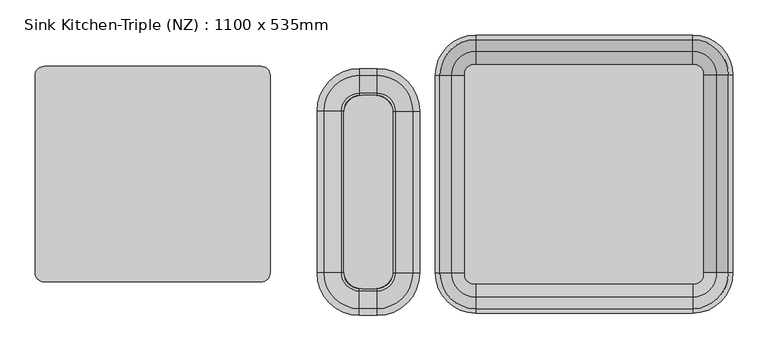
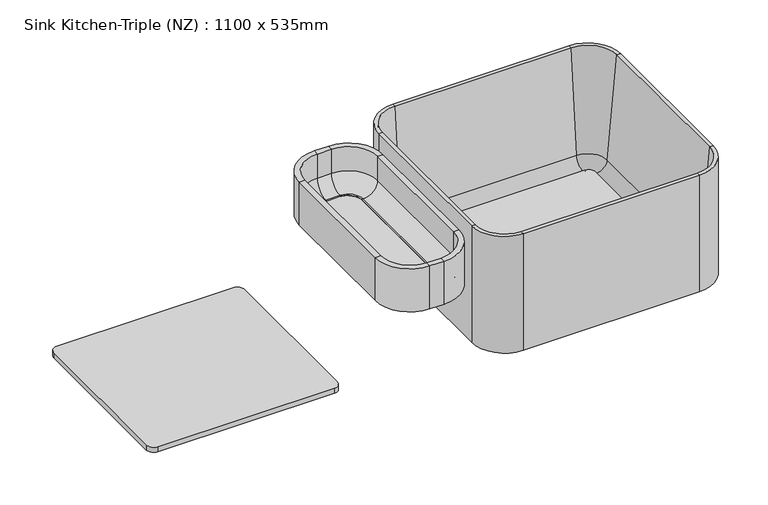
"""IFC4 building model written with IfcOpenShell, lengths in millimetres: flow terminal geometry, Sink Kitchen-Triple (NZ) : 1100 x 535mm."""

from ifc_helpers import new_model, si_unit, point, frame, frame_2d, origin, place, context, project, spatial, polyline, circle_curve, ellipse_curve, trimmed, segment, composite_curve, outline, extrude, source, transform, mapped, element, save
from ifc_brep_helpers import plane_surface, cylinder_surface, revolved_surface, advanced_brep


def sink_kitchen_triple_nz_1100_x_535mm_e0c28fc6(model_context):
    return source(origin(), model_context, "Body", "SolidModel", [
        extrude(outline(composite_curve([segment(trimmed(circle_curve(frame_2d((25.2142406, 50.7704011)), 25.4), [point((25.2142406, 76.1704011))], [point((50.6142406, 50.7704011))], False, "CARTESIAN"), True, "CONTINUOUS"), segment(polyline([(50.6142406, 50.7704011), (50.6142406, -173.0795989)]), True, "CONTINUOUS"), segment(trimmed(circle_curve(frame_2d((25.2142406, -173.0795989)), 25.4), [point((50.6142406, -173.0795989))], [point((25.2142406, -198.4795989))], False, "CARTESIAN"), True, "CONTINUOUS"), segment(polyline([(25.2142406, -198.4795989), (6.1642406, -198.4795989)]), True, "CONTINUOUS"), segment(trimmed(circle_curve(frame_2d((6.1642406, -173.0795989)), 25.4), [point((6.1642406, -198.4795989))], [point((-19.2357594, -173.0795989))], False, "CARTESIAN"), True, "CONTINUOUS"), segment(polyline([(-19.2357594, -173.0795989), (-19.2357594, 50.7704011)]), True, "CONTINUOUS"), segment(trimmed(circle_curve(frame_2d((6.1642406, 50.7704011)), 25.4), [point((-19.2357594, 50.7704011))], [point((6.1642406, 76.1704011))], False, "CARTESIAN"), True, "CONTINUOUS"), segment(polyline([(6.1642406, 76.1704011), (25.2142406, 76.1704011)]), True, "CONTINUOUS")], self_intersect=False)), frame((0.0, 0.0, 820.625), z_axis=(0.0, 0.0, 1.0), x_axis=(1.0, 0.0, 0.0)), (0.0, 0.0, 1.0), 9.525),
        advanced_brep(
        [(79.1892406, 53.9454011, 900.0), (28.3892406, 104.7454011, 900.0), (28.3892406, 104.7454011, 855.55), (79.1892406, 53.9454011, 855.55), (88.7142406, 53.9454011, 900.0), (28.3892406, 114.2704011, 900.0), (88.7142406, 53.9454011, 820.625), (28.3892406, 114.2704011, 820.625), (50.6142406, 53.9454011, 820.625), (28.3892406, 76.1704011, 820.625), (50.6142406, 53.9454011, 830.15), (28.3892406, 76.1704011, 830.15), (53.7892406, 53.9454011, 830.15), (28.3892406, 79.3454011, 830.15), (79.1892406, -176.2545989, 855.55), (79.1892406, -176.2545989, 900.0), (88.7142406, -176.2545989, 900.0), (88.7142406, -176.2545989, 820.625), (50.6142406, -176.2545989, 820.625), (50.6142406, -176.2545989, 830.15), (53.7892406, -176.2545989, 830.15), (28.3892406, -227.0545989, 900.0), (28.3892406, -227.0545989, 855.55), (28.3892406, -236.5795989, 900.0), (28.3892406, -236.5795989, 820.625), (28.3892406, -198.4795989, 820.625), (28.3892406, -198.4795989, 830.15), (28.3892406, -201.6545989, 830.15), (2.9892406, -227.0545989, 855.55), (2.9892406, -227.0545989, 900.0), (2.9892406, -236.5795989, 900.0), (2.9892406, -236.5795989, 820.625), (2.9892406, -198.4795989, 820.625), (2.9892406, -198.4795989, 830.15), (2.9892406, -201.6545989, 830.15), (-47.8107594, -176.2545989, 900.0), (-47.8107594, -176.2545989, 855.55), (-57.3357594, -176.2545989, 900.0), (-57.3357594, -176.2545989, 820.625), (-19.2357594, -176.2545989, 820.625), (-19.2357594, -176.2545989, 830.15), (-22.4107594, -176.2545989, 830.15), (-47.8107594, 53.9454011, 855.55), (-47.8107594, 53.9454011, 900.0), (-57.3357594, 53.9454011, 900.0), (-57.3357594, 53.9454011, 820.625), (-19.2357594, 53.9454011, 820.625), (-19.2357594, 53.9454011, 830.15), (-22.4107594, 53.9454011, 830.15), (2.9892406, 104.7454011, 900.0), (2.9892406, 104.7454011, 855.55), (2.9892406, 114.2704011, 900.0), (2.9892406, 114.2704011, 820.625), (2.9892406, 76.1704011, 820.625), (2.9892406, 76.1704011, 830.15), (2.9892406, 79.3454011, 830.15)],
        [
            (0, 1, circle_curve(frame((28.3892406, 53.9454011, 900.0), z_axis=(0.0, 0.0, 1.0), x_axis=(0.0, 1.0, 0.0)), 50.8)),
            (1, 2),
            (2, 3, circle_curve(frame((28.3892406, 53.9454011, 855.55), z_axis=(0.0, 0.0, -1.0), x_axis=(0.0, 1.0, 0.0)), 50.8)),
            (3, 0),
            (4, 5, circle_curve(frame((28.3892406, 53.9454011, 900.0), z_axis=(0.0, 0.0, 1.0), x_axis=(0.0, 1.0, 0.0)), 60.325)),
            (5, 1),
            (0, 4),
            (6, 7, circle_curve(frame((28.3892406, 53.9454011, 820.625), z_axis=(0.0, 0.0, 1.0), x_axis=(0.0, 1.0, 0.0)), 60.325)),
            (7, 5),
            (4, 6),
            (8, 9, circle_curve(frame((28.3892406, 53.9454011, 820.625), z_axis=(0.0, 0.0, 1.0), x_axis=(0.0, 1.0, 0.0)), 22.225)),
            (9, 7),
            (6, 8),
            (10, 11, circle_curve(frame((28.3892406, 53.9454011, 830.15), z_axis=(0.0, 0.0, 1.0), x_axis=(0.0, 1.0, 0.0)), 22.225)),
            (11, 9),
            (8, 10),
            (12, 13, circle_curve(frame((28.3892406, 53.9454011, 830.15), z_axis=(0.0, 0.0, 1.0), x_axis=(0.0, 1.0, 0.0)), 25.4)),
            (13, 11),
            (10, 12),
            (2, 13, circle_curve(frame((28.3892406, 79.3454011, 855.55), z_axis=(-1.0, 0.0, 0.0), x_axis=(0.0, 1.0, 0.0)), 25.4)),
            (12, 3, circle_curve(frame((53.7892406, 53.9454011, 855.55), z_axis=(0.0, -1.0, 0.0), x_axis=(1.0, 0.0, 0.0)), 25.4)),
            (3, 14),
            (14, 15),
            (15, 0),
            (15, 16),
            (16, 4),
            (16, 17),
            (17, 6),
            (17, 18),
            (18, 8),
            (18, 19),
            (19, 10),
            (19, 20),
            (20, 12),
            (20, 14, circle_curve(frame((53.7892406, -176.2545989, 855.55), z_axis=(0.0, -1.0, 0.0), x_axis=(1.0, 0.0, 0.0)), 25.4)),
            (21, 15, circle_curve(frame((28.3892406, -176.2545989, 900.0), z_axis=(0.0, 0.0, 1.0), x_axis=(1.0, 0.0, 0.0)), 50.8)),
            (14, 22, circle_curve(frame((28.3892406, -176.2545989, 855.55), z_axis=(0.0, 0.0, -1.0), x_axis=(1.0, 0.0, 0.0)), 50.8)),
            (22, 21),
            (23, 16, circle_curve(frame((28.3892406, -176.2545989, 900.0), z_axis=(0.0, 0.0, 1.0), x_axis=(1.0, 0.0, 0.0)), 60.325)),
            (21, 23),
            (24, 17, circle_curve(frame((28.3892406, -176.2545989, 820.625), z_axis=(0.0, 0.0, 1.0), x_axis=(1.0, 0.0, 0.0)), 60.325)),
            (23, 24),
            (25, 18, circle_curve(frame((28.3892406, -176.2545989, 820.625), z_axis=(0.0, 0.0, 1.0), x_axis=(1.0, 0.0, 0.0)), 22.225)),
            (24, 25),
            (26, 19, circle_curve(frame((28.3892406, -176.2545989, 830.15), z_axis=(0.0, 0.0, 1.0), x_axis=(1.0, 0.0, 0.0)), 22.225)),
            (25, 26),
            (27, 20, circle_curve(frame((28.3892406, -176.2545989, 830.15), z_axis=(0.0, 0.0, 1.0), x_axis=(1.0, 0.0, 0.0)), 25.4)),
            (26, 27),
            (27, 22, circle_curve(frame((28.3892406, -201.6545989, 855.55), z_axis=(-1.0, 0.0, 0.0), x_axis=(0.0, -1.0, 0.0)), 25.4)),
            (22, 28),
            (28, 29),
            (29, 21),
            (29, 30),
            (30, 23),
            (30, 31),
            (31, 24),
            (31, 32),
            (32, 25),
            (32, 33),
            (33, 26),
            (33, 34),
            (34, 27),
            (34, 28, circle_curve(frame((2.9892406, -201.6545989, 855.55), z_axis=(-1.0, 0.0, 0.0), x_axis=(0.0, -1.0, 0.0)), 25.4)),
            (35, 29, circle_curve(frame((2.9892406, -176.2545989, 900.0), z_axis=(0.0, 0.0, 1.0), x_axis=(0.0, -1.0, 0.0)), 50.8)),
            (28, 36, circle_curve(frame((2.9892406, -176.2545989, 855.55), z_axis=(0.0, 0.0, -1.0), x_axis=(0.0, -1.0, 0.0)), 50.8)),
            (36, 35),
            (37, 30, circle_curve(frame((2.9892406, -176.2545989, 900.0), z_axis=(0.0, 0.0, 1.0), x_axis=(0.0, -1.0, 0.0)), 60.325)),
            (35, 37),
            (38, 31, circle_curve(frame((2.9892406, -176.2545989, 820.625), z_axis=(0.0, 0.0, 1.0), x_axis=(0.0, -1.0, 0.0)), 60.325)),
            (37, 38),
            (39, 32, circle_curve(frame((2.9892406, -176.2545989, 820.625), z_axis=(0.0, 0.0, 1.0), x_axis=(0.0, -1.0, 0.0)), 22.225)),
            (38, 39),
            (40, 33, circle_curve(frame((2.9892406, -176.2545989, 830.15), z_axis=(0.0, 0.0, 1.0), x_axis=(0.0, -1.0, 0.0)), 22.225)),
            (39, 40),
            (41, 34, circle_curve(frame((2.9892406, -176.2545989, 830.15), z_axis=(0.0, 0.0, 1.0), x_axis=(0.0, -1.0, 0.0)), 25.4)),
            (40, 41),
            (41, 36, circle_curve(frame((-22.4107594, -176.2545989, 855.55), z_axis=(0.0, 1.0, 0.0), x_axis=(-1.0, 0.0, 0.0)), 25.4)),
            (36, 42),
            (42, 43),
            (43, 35),
            (43, 44),
            (44, 37),
            (44, 45),
            (45, 38),
            (45, 46),
            (46, 39),
            (46, 47),
            (47, 40),
            (47, 48),
            (48, 41),
            (48, 42, circle_curve(frame((-22.4107594, 53.9454011, 855.55), z_axis=(0.0, 1.0, 0.0), x_axis=(-1.0, 0.0, 0.0)), 25.4)),
            (49, 43, circle_curve(frame((2.9892406, 53.9454011, 900.0), z_axis=(0.0, 0.0, 1.0), x_axis=(-1.0, 0.0, 0.0)), 50.8)),
            (42, 50, circle_curve(frame((2.9892406, 53.9454011, 855.55), z_axis=(0.0, 0.0, -1.0), x_axis=(-1.0, 0.0, 0.0)), 50.8)),
            (50, 49),
            (51, 44, circle_curve(frame((2.9892406, 53.9454011, 900.0), z_axis=(0.0, 0.0, 1.0), x_axis=(-1.0, 0.0, 0.0)), 60.325)),
            (49, 51),
            (52, 45, circle_curve(frame((2.9892406, 53.9454011, 820.625), z_axis=(0.0, 0.0, 1.0), x_axis=(-1.0, 0.0, 0.0)), 60.325)),
            (51, 52),
            (53, 46, circle_curve(frame((2.9892406, 53.9454011, 820.625), z_axis=(0.0, 0.0, 1.0), x_axis=(-1.0, 0.0, 0.0)), 22.225)),
            (52, 53),
            (54, 47, circle_curve(frame((2.9892406, 53.9454011, 830.15), z_axis=(0.0, 0.0, 1.0), x_axis=(-1.0, 0.0, 0.0)), 22.225)),
            (53, 54),
            (55, 48, circle_curve(frame((2.9892406, 53.9454011, 830.15), z_axis=(0.0, 0.0, 1.0), x_axis=(-1.0, 0.0, 0.0)), 25.4)),
            (54, 55),
            (55, 50, circle_curve(frame((2.9892406, 79.3454011, 855.55), z_axis=(1.0, 0.0, 0.0), x_axis=(0.0, 1.0, 0.0)), 25.4)),
            (50, 2),
            (1, 49),
            (5, 51),
            (7, 52),
            (9, 53),
            (11, 54),
            (13, 55),
        ],
        [
            revolved_surface(polyline([(28.3892406, 104.7454011, 855.55), (28.3892406, 104.7454011, 900.0)]), (28.3892406, 53.9454011, 0.0), (0.0, 0.0, -1.0)),
            plane_surface(frame((28.3892406, 53.9454011, 900.0), z_axis=(0.0, 0.0, 1.0), x_axis=(0.0, 1.0, 0.0))),
            cylinder_surface(frame((28.3892406, 53.9454011, 0.0), z_axis=(0.0, 0.0, -1.0), x_axis=(0.0, 1.0, 0.0)), 60.325),
            plane_surface(frame((28.3892406, 53.9454011, 820.625), z_axis=(0.0, 0.0, -1.0), x_axis=(0.0, 1.0, 0.0))),
            revolved_surface(polyline([(28.3892406, 76.17040109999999, 820.625), (28.3892406, 76.17040109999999, 830.15)]), (28.3892406, 53.9454011, 0.0), (0.0, 0.0, -1.0)),
            plane_surface(frame((28.3892406, 53.9454011, 830.15), z_axis=(0.0, 0.0, 1.0), x_axis=(0.0, 1.0, 0.0))),
            revolved_surface(trimmed(ellipse_curve(frame((28.3892406, 79.3454011, 855.55), z_axis=(1.0, 0.0, 0.0), x_axis=(0.0, 1.0, 0.0)), 25.4, 25.4), [point((28.3892406, 79.3454011, 830.15))], [point((28.3892406, 104.7454011, 855.55))], True, "CARTESIAN"), (28.3892406, 53.9454011, 0.0), (0.0, 0.0, -1.0)),
            plane_surface(frame((79.1892406, 53.9454011, 855.55), z_axis=(-1.0, 0.0, 0.0), x_axis=(0.0, -1.0, 0.0))),
            plane_surface(frame((79.1892406, 53.9454011, 900.0), z_axis=(0.0, 0.0, 1.0), x_axis=(0.0, -1.0, 0.0))),
            plane_surface(frame((88.7142406, 53.9454011, 900.0), z_axis=(1.0, 0.0, 0.0), x_axis=(0.0, -1.0, 0.0))),
            plane_surface(frame((88.7142406, 53.9454011, 820.625), z_axis=(0.0, 0.0, -1.0), x_axis=(0.0, -1.0, 0.0))),
            plane_surface(frame((50.6142406, 53.9454011, 820.625), z_axis=(-1.0, 0.0, 0.0), x_axis=(0.0, -1.0, 0.0))),
            plane_surface(frame((50.6142406, 53.9454011, 830.15), z_axis=(0.0, 0.0, 1.0), x_axis=(0.0, -1.0, 0.0))),
            revolved_surface(polyline([(79.1892406, -176.2545989, 855.55), (79.1892406, 53.9454011, 855.55)]), (53.7892406, 53.9454011, 855.55), (0.0, -1.0, 0.0)),
            revolved_surface(polyline([(79.1892406, -176.2545989, 855.55), (79.1892406, -176.2545989, 900.0)]), (28.3892406, -176.2545989, 0.0), (0.0, 0.0, -1.0)),
            plane_surface(frame((28.3892406, -176.2545989, 900.0), z_axis=(0.0, 0.0, 1.0), x_axis=(1.0, 0.0, 0.0))),
            cylinder_surface(frame((28.3892406, -176.2545989, 0.0), z_axis=(0.0, 0.0, -1.0), x_axis=(1.0, 0.0, 0.0)), 60.325),
            plane_surface(frame((28.3892406, -176.2545989, 820.625), z_axis=(0.0, 0.0, -1.0), x_axis=(1.0, 0.0, 0.0))),
            revolved_surface(polyline([(50.6142406, -176.2545989, 820.625), (50.6142406, -176.2545989, 830.15)]), (28.3892406, -176.2545989, 0.0), (0.0, 0.0, -1.0)),
            plane_surface(frame((28.3892406, -176.2545989, 830.15), z_axis=(0.0, 0.0, 1.0), x_axis=(1.0, 0.0, 0.0))),
            revolved_surface(trimmed(ellipse_curve(frame((53.7892406, -176.2545989, 855.55), z_axis=(0.0, -1.0, 0.0), x_axis=(1.0, 0.0, 0.0)), 25.4, 25.4), [point((53.7892406, -176.2545989, 830.15))], [point((79.1892406, -176.2545989, 855.55))], True, "CARTESIAN"), (28.3892406, -176.2545989, 0.0), (0.0, 0.0, -1.0)),
            plane_surface(frame((28.3892406, -227.0545989, 855.55), z_axis=(0.0, 1.0, 0.0), x_axis=(-1.0, 0.0, 0.0))),
            plane_surface(frame((28.3892406, -227.0545989, 900.0), z_axis=(0.0, 0.0, 1.0), x_axis=(-1.0, 0.0, 0.0))),
            plane_surface(frame((28.3892406, -236.5795989, 900.0), z_axis=(0.0, -1.0, 0.0), x_axis=(-1.0, 0.0, 0.0))),
            plane_surface(frame((28.3892406, -236.5795989, 820.625), z_axis=(0.0, 0.0, -1.0), x_axis=(-1.0, 0.0, 0.0))),
            plane_surface(frame((28.3892406, -198.4795989, 820.625), z_axis=(0.0, 1.0, 0.0), x_axis=(-1.0, 0.0, 0.0))),
            plane_surface(frame((28.3892406, -198.4795989, 830.15), z_axis=(0.0, 0.0, 1.0), x_axis=(-1.0, 0.0, 0.0))),
            revolved_surface(polyline([(2.9892405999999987, -227.0545989, 855.55), (28.3892406, -227.0545989, 855.55)]), (28.3892406, -201.6545989, 855.55), (-1.0, 0.0, 0.0)),
            revolved_surface(polyline([(2.9892406, -227.05459889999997, 855.55), (2.9892406, -227.05459889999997, 900.0)]), (2.9892406, -176.2545989, 0.0), (0.0, 0.0, -1.0)),
            plane_surface(frame((2.9892406, -176.2545989, 900.0), z_axis=(0.0, 0.0, 1.0), x_axis=(0.0, -1.0, 0.0))),
            cylinder_surface(frame((2.9892406, -176.2545989, 0.0), z_axis=(0.0, 0.0, -1.0), x_axis=(0.0, -1.0, 0.0)), 60.325),
            plane_surface(frame((2.9892406, -176.2545989, 820.625), z_axis=(0.0, 0.0, -1.0), x_axis=(0.0, -1.0, 0.0))),
            revolved_surface(polyline([(2.9892406, -198.47959889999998, 820.625), (2.9892406, -198.47959889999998, 830.15)]), (2.9892406, -176.2545989, 0.0), (0.0, 0.0, -1.0)),
            plane_surface(frame((2.9892406, -176.2545989, 830.15), z_axis=(0.0, 0.0, 1.0), x_axis=(0.0, -1.0, 0.0))),
            revolved_surface(trimmed(ellipse_curve(frame((2.9892406, -201.6545989, 855.55), z_axis=(-1.0, 0.0, 0.0), x_axis=(0.0, -1.0, 0.0)), 25.4, 25.4), [point((2.9892406, -201.6545989, 830.15))], [point((2.9892406, -227.0545989, 855.55))], True, "CARTESIAN"), (2.9892406, -176.2545989, 0.0), (0.0, 0.0, -1.0)),
            plane_surface(frame((-47.8107594, -176.2545989, 855.55), z_axis=(1.0, 0.0, 0.0), x_axis=(0.0, 1.0, 0.0))),
            plane_surface(frame((-47.8107594, -176.2545989, 900.0), z_axis=(0.0, 0.0, 1.0), x_axis=(0.0, 1.0, 0.0))),
            plane_surface(frame((-57.3357594, -176.2545989, 900.0), z_axis=(-1.0, 0.0, 0.0), x_axis=(0.0, 1.0, 0.0))),
            plane_surface(frame((-57.3357594, -176.2545989, 820.625), z_axis=(0.0, 0.0, -1.0), x_axis=(0.0, 1.0, 0.0))),
            plane_surface(frame((-19.2357594, -176.2545989, 820.625), z_axis=(1.0, 0.0, 0.0), x_axis=(0.0, 1.0, 0.0))),
            plane_surface(frame((-19.2357594, -176.2545989, 830.15), z_axis=(0.0, 0.0, 1.0), x_axis=(0.0, 1.0, 0.0))),
            revolved_surface(polyline([(-47.810759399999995, 53.9454011, 855.55), (-47.810759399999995, -176.2545989, 855.55)]), (-22.4107594, -176.2545989, 855.55), (0.0, 1.0, 0.0)),
            revolved_surface(polyline([(-47.810759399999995, 53.9454011, 855.55), (-47.810759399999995, 53.9454011, 900.0)]), (2.9892406, 53.9454011, 0.0), (0.0, 0.0, -1.0)),
            plane_surface(frame((2.9892406, 53.9454011, 900.0), z_axis=(0.0, 0.0, 1.0), x_axis=(-1.0, 0.0, 0.0))),
            cylinder_surface(frame((2.9892406, 53.9454011, 0.0), z_axis=(0.0, 0.0, -1.0), x_axis=(-1.0, 0.0, 0.0)), 60.325),
            plane_surface(frame((2.9892406, 53.9454011, 820.625), z_axis=(0.0, 0.0, -1.0), x_axis=(-1.0, 0.0, 0.0))),
            revolved_surface(polyline([(-19.235759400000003, 53.9454011, 820.625), (-19.235759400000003, 53.9454011, 830.15)]), (2.9892406, 53.9454011, 0.0), (0.0, 0.0, -1.0)),
            plane_surface(frame((2.9892406, 53.9454011, 830.15), z_axis=(0.0, 0.0, 1.0), x_axis=(-1.0, 0.0, 0.0))),
            revolved_surface(trimmed(ellipse_curve(frame((-22.4107594, 53.9454011, 855.55), z_axis=(0.0, 1.0, 0.0), x_axis=(-1.0, 0.0, 0.0)), 25.4, 25.4), [point((-22.4107594, 53.9454011, 830.15))], [point((-47.8107594, 53.9454011, 855.55))], True, "CARTESIAN"), (2.9892406, 53.9454011, 0.0), (0.0, 0.0, -1.0)),
            plane_surface(frame((2.9892406, 104.7454011, 855.55), z_axis=(0.0, -1.0, 0.0), x_axis=(1.0, 0.0, 0.0))),
            plane_surface(frame((2.9892406, 104.7454011, 900.0), z_axis=(0.0, 0.0, 1.0), x_axis=(1.0, 0.0, 0.0))),
            plane_surface(frame((2.9892406, 114.2704011, 900.0), z_axis=(0.0, 1.0, 0.0), x_axis=(1.0, 0.0, 0.0))),
            plane_surface(frame((2.9892406, 114.2704011, 820.625), z_axis=(0.0, 0.0, -1.0), x_axis=(1.0, 0.0, 0.0))),
            plane_surface(frame((2.9892406, 76.1704011, 820.625), z_axis=(0.0, -1.0, 0.0), x_axis=(1.0, 0.0, 0.0))),
            plane_surface(frame((2.9892406, 76.1704011, 830.15), z_axis=(0.0, 0.0, 1.0), x_axis=(1.0, 0.0, 0.0))),
            revolved_surface(polyline([(28.3892406, 104.74540110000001, 855.55), (2.9892406, 104.74540110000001, 855.55)]), (2.9892406, 79.3454011, 855.55), (1.0, 0.0, 0.0)),
        ],
        [
            (0, [[1, 2, 3, 4]]),
            (1, [[5, 6, -1, 7]]),
            (2, [[8, 9, -5, 10]]),
            (3, [[11, 12, -8, 13]]),
            (4, [[14, 15, -11, 16]]),
            (5, [[17, 18, -14, 19]]),
            (6, [[-3, 20, -17, 21]]),
            (7, [[-4, 22, 23, 24]]),
            (8, [[-7, -24, 25, 26]]),
            (9, [[-10, -26, 27, 28]]),
            (10, [[-13, -28, 29, 30]]),
            (11, [[-16, -30, 31, 32]]),
            (12, [[-19, -32, 33, 34]]),
            (13, [[-21, -34, 35, -22]]),
            (14, [[36, -23, 37, 38]]),
            (15, [[39, -25, -36, 40]]),
            (16, [[41, -27, -39, 42]]),
            (17, [[43, -29, -41, 44]]),
            (18, [[45, -31, -43, 46]]),
            (19, [[47, -33, -45, 48]]),
            (20, [[-37, -35, -47, 49]]),
            (21, [[-38, 50, 51, 52]]),
            (22, [[-40, -52, 53, 54]]),
            (23, [[-42, -54, 55, 56]]),
            (24, [[-44, -56, 57, 58]]),
            (25, [[-46, -58, 59, 60]]),
            (26, [[-48, -60, 61, 62]]),
            (27, [[-49, -62, 63, -50]]),
            (28, [[64, -51, 65, 66]]),
            (29, [[67, -53, -64, 68]]),
            (30, [[69, -55, -67, 70]]),
            (31, [[71, -57, -69, 72]]),
            (32, [[73, -59, -71, 74]]),
            (33, [[75, -61, -73, 76]]),
            (34, [[-65, -63, -75, 77]]),
            (35, [[-66, 78, 79, 80]]),
            (36, [[-68, -80, 81, 82]]),
            (37, [[-70, -82, 83, 84]]),
            (38, [[-72, -84, 85, 86]]),
            (39, [[-74, -86, 87, 88]]),
            (40, [[-76, -88, 89, 90]]),
            (41, [[-77, -90, 91, -78]]),
            (42, [[92, -79, 93, 94]]),
            (43, [[95, -81, -92, 96]]),
            (44, [[97, -83, -95, 98]]),
            (45, [[99, -85, -97, 100]]),
            (46, [[101, -87, -99, 102]]),
            (47, [[103, -89, -101, 104]]),
            (48, [[-93, -91, -103, 105]]),
            (49, [[-94, 106, -2, 107]]),
            (50, [[-96, -107, -6, 108]]),
            (51, [[-98, -108, -9, 109]]),
            (52, [[-100, -109, -12, 110]]),
            (53, [[-102, -110, -15, 111]]),
            (54, [[-104, -111, -18, 112]]),
            (55, [[-105, -112, -20, -106]]),
        ],
    ),
        extrude(outline(composite_curve([segment(polyline([(165.5008224, 120.0338193), (479.3776588, 120.0338193)]), True, "CONTINUOUS"), segment(trimmed(circle_curve(frame_2d((479.3776588, 107.3338193)), 12.7), [point((479.3776588, 120.0338193))], [point((492.0776588, 107.3338193))], False, "CARTESIAN"), True, "CONTINUOUS"), segment(polyline([(492.0776588, 107.3338193), (492.0776588, -178.8430171)]), True, "CONTINUOUS"), segment(trimmed(circle_curve(frame_2d((479.3776588, -178.8430171)), 12.7), [point((492.0776588, -178.8430171))], [point((479.3776588, -191.5430171))], False, "CARTESIAN"), True, "CONTINUOUS"), segment(polyline([(479.3776588, -191.5430171), (165.5008224, -191.5430171)]), True, "CONTINUOUS"), segment(trimmed(circle_curve(frame_2d((165.5008224, -178.8430171)), 12.7), [point((165.5008224, -191.5430171))], [point((152.8008224, -178.8430171))], False, "CARTESIAN"), True, "CONTINUOUS"), segment(polyline([(152.8008224, -178.8430171), (152.8008224, 107.3338193)]), True, "CONTINUOUS"), segment(trimmed(circle_curve(frame_2d((165.5008224, 107.3338193)), 12.7), [point((152.8008224, 107.3338193))], [point((165.5008224, 120.0338193))], False, "CARTESIAN"), True, "CONTINUOUS")], self_intersect=False)), frame((0.0, 0.0, 684.1), z_axis=(0.0, 0.0, 1.0), x_axis=(1.0, 0.0, 0.0)), (0.0, 0.0, 1.0), 9.525),
        advanced_brep(
        [(117.2892406, 104.7454011, 900.0), (168.0892406, 155.5454011, 900.0), (168.0892406, 161.8954011, 900.0), (110.9392406, 104.7454011, 900.0), (133.8233134, 104.7454011, 711.0146831), (168.0892406, 139.0113283, 711.0146831), (152.8008224, 104.7454011, 693.625), (168.0892406, 120.0338193, 693.625), (155.3892406, 104.7454011, 693.625), (168.0892406, 117.4454011, 693.625), (155.3892406, 104.7454011, 684.1), (168.0892406, 117.4454011, 684.1), (110.9392406, 104.7454011, 684.1), (168.0892406, 161.8954011, 684.1), (110.9392406, -176.2545989, 900.0), (117.2892406, -176.2545989, 900.0), (133.8233134, -176.2545989, 711.0146831), (152.8008224, -176.2545989, 693.625), (155.3892406, -176.2545989, 693.625), (155.3892406, -176.2545989, 684.1), (110.9392406, -176.2545989, 684.1), (168.0892406, -227.0545989, 900.0), (168.0892406, -233.4045989, 900.0), (168.0892406, -210.5205261, 711.0146831), (168.0892406, -191.5430171, 693.625), (168.0892406, -188.9545989, 693.625), (168.0892406, -188.9545989, 684.1), (168.0892406, -233.4045989, 684.1), (476.7892406, -233.4045989, 900.0), (476.7892406, -227.0545989, 900.0), (476.7892406, -210.5205261, 711.0146831), (476.7892406, -191.5430171, 693.625), (476.7892406, -188.9545989, 693.625), (476.7892406, -188.9545989, 684.1), (476.7892406, -233.4045989, 684.1), (527.5892406, -176.2545989, 900.0), (533.9392406, -176.2545989, 900.0), (511.0551678, -176.2545989, 711.0146831), (492.0776588, -176.2545989, 693.625), (489.4892406, -176.2545989, 693.625), (489.4892406, -176.2545989, 684.1), (533.9392406, -176.2545989, 684.1), (533.9392406, 104.7454011, 900.0), (527.5892406, 104.7454011, 900.0), (511.0551678, 104.7454011, 711.0146831), (492.0776588, 104.7454011, 693.625), (489.4892406, 104.7454011, 693.625), (489.4892406, 104.7454011, 684.1), (533.9392406, 104.7454011, 684.1), (476.7892406, 155.5454011, 900.0), (476.7892406, 161.8954011, 900.0), (476.7892406, 139.0113283, 711.0146831), (476.7892406, 120.0338193, 693.625), (476.7892406, 117.4454011, 693.625), (476.7892406, 117.4454011, 684.1), (476.7892406, 161.8954011, 684.1)],
        [
            (0, 1, circle_curve(frame((168.0892406, 104.7454011, 900.0), z_axis=(0.0, 0.0, -1.0), x_axis=(0.0, 1.0, 0.0)), 50.8)),
            (1, 2),
            (2, 3, circle_curve(frame((168.0892406, 104.7454011, 900.0), z_axis=(0.0, 0.0, 1.0), x_axis=(0.0, 1.0, 0.0)), 57.15)),
            (3, 0),
            (4, 5, circle_curve(frame((168.0892406, 104.7454011, 711.0146831), z_axis=(0.0, 0.0, -1.0), x_axis=(0.0, 1.0, 0.0)), 34.2659272)),
            (5, 1),
            (0, 4),
            (6, 7, circle_curve(frame((168.0892406, 104.7454011, 693.625), z_axis=(0.0, 0.0, -1.0), x_axis=(0.0, 1.0, 0.0)), 15.2884182)),
            (7, 5, circle_curve(frame((168.0892406, 120.0338193, 712.675), z_axis=(1.0, 0.0, 0.0), x_axis=(0.0, -1.0, 0.0)), 19.05)),
            (4, 6, circle_curve(frame((152.8008224, 104.7454011, 712.675), z_axis=(0.0, -1.0, 0.0), x_axis=(1.0, 0.0, 0.0)), 19.05)),
            (8, 9, circle_curve(frame((168.0892406, 104.7454011, 693.625), z_axis=(0.0, 0.0, -1.0), x_axis=(0.0, 1.0, 0.0)), 12.7)),
            (9, 7),
            (6, 8),
            (10, 11, circle_curve(frame((168.0892406, 104.7454011, 684.1), z_axis=(0.0, 0.0, -1.0), x_axis=(0.0, 1.0, 0.0)), 12.7)),
            (11, 9),
            (8, 10),
            (12, 13, circle_curve(frame((168.0892406, 104.7454011, 684.1), z_axis=(0.0, 0.0, -1.0), x_axis=(0.0, 1.0, 0.0)), 57.15)),
            (13, 11),
            (10, 12),
            (2, 13),
            (12, 3),
            (3, 14),
            (14, 15),
            (15, 0),
            (15, 16),
            (16, 4),
            (16, 17, circle_curve(frame((152.8008224, -176.2545989, 712.675), z_axis=(0.0, -1.0, 0.0), x_axis=(1.0, 0.0, 0.0)), 19.05)),
            (17, 6),
            (17, 18),
            (18, 8),
            (18, 19),
            (19, 10),
            (19, 20),
            (20, 12),
            (20, 14),
            (21, 15, circle_curve(frame((168.0892406, -176.2545989, 900.0), z_axis=(0.0, 0.0, -1.0), x_axis=(-1.0, 0.0, 0.0)), 50.8)),
            (14, 22, circle_curve(frame((168.0892406, -176.2545989, 900.0), z_axis=(0.0, 0.0, 1.0), x_axis=(-1.0, 0.0, 0.0)), 57.15)),
            (22, 21),
            (23, 16, circle_curve(frame((168.0892406, -176.2545989, 711.0146831), z_axis=(0.0, 0.0, -1.0), x_axis=(-1.0, 0.0, 0.0)), 34.2659272)),
            (21, 23),
            (24, 17, circle_curve(frame((168.0892406, -176.2545989, 693.625), z_axis=(0.0, 0.0, -1.0), x_axis=(-1.0, 0.0, 0.0)), 15.2884182)),
            (23, 24, circle_curve(frame((168.0892406, -191.5430171, 712.675), z_axis=(1.0, 0.0, 0.0), x_axis=(0.0, 1.0, 0.0)), 19.05)),
            (25, 18, circle_curve(frame((168.0892406, -176.2545989, 693.625), z_axis=(0.0, 0.0, -1.0), x_axis=(-1.0, 0.0, 0.0)), 12.7)),
            (24, 25),
            (26, 19, circle_curve(frame((168.0892406, -176.2545989, 684.1), z_axis=(0.0, 0.0, -1.0), x_axis=(-1.0, 0.0, 0.0)), 12.7)),
            (25, 26),
            (27, 20, circle_curve(frame((168.0892406, -176.2545989, 684.1), z_axis=(0.0, 0.0, -1.0), x_axis=(-1.0, 0.0, 0.0)), 57.15)),
            (26, 27),
            (27, 22),
            (22, 28),
            (28, 29),
            (29, 21),
            (29, 30),
            (30, 23),
            (30, 31, circle_curve(frame((476.7892406, -191.5430171, 712.675), z_axis=(1.0, 0.0, 0.0), x_axis=(0.0, 1.0, 0.0)), 19.05)),
            (31, 24),
            (31, 32),
            (32, 25),
            (32, 33),
            (33, 26),
            (33, 34),
            (34, 27),
            (34, 28),
            (35, 29, circle_curve(frame((476.7892406, -176.2545989, 900.0), z_axis=(0.0, 0.0, -1.0), x_axis=(0.0, -1.0, 0.0)), 50.8)),
            (28, 36, circle_curve(frame((476.7892406, -176.2545989, 900.0), z_axis=(0.0, 0.0, 1.0), x_axis=(0.0, -1.0, 0.0)), 57.15)),
            (36, 35),
            (37, 30, circle_curve(frame((476.7892406, -176.2545989, 711.0146831), z_axis=(0.0, 0.0, -1.0), x_axis=(0.0, -1.0, 0.0)), 34.2659272)),
            (35, 37),
            (38, 31, circle_curve(frame((476.7892406, -176.2545989, 693.625), z_axis=(0.0, 0.0, -1.0), x_axis=(0.0, -1.0, 0.0)), 15.2884182)),
            (37, 38, circle_curve(frame((492.0776588, -176.2545989, 712.675), z_axis=(0.0, 1.0, 0.0), x_axis=(-1.0, 0.0, 0.0)), 19.05)),
            (39, 32, circle_curve(frame((476.7892406, -176.2545989, 693.625), z_axis=(0.0, 0.0, -1.0), x_axis=(0.0, -1.0, 0.0)), 12.7)),
            (38, 39),
            (40, 33, circle_curve(frame((476.7892406, -176.2545989, 684.1), z_axis=(0.0, 0.0, -1.0), x_axis=(0.0, -1.0, 0.0)), 12.7)),
            (39, 40),
            (41, 34, circle_curve(frame((476.7892406, -176.2545989, 684.1), z_axis=(0.0, 0.0, -1.0), x_axis=(0.0, -1.0, 0.0)), 57.15)),
            (40, 41),
            (41, 36),
            (36, 42),
            (42, 43),
            (43, 35),
            (43, 44),
            (44, 37),
            (44, 45, circle_curve(frame((492.0776588, 104.7454011, 712.675), z_axis=(0.0, 1.0, 0.0), x_axis=(-1.0, 0.0, 0.0)), 19.05)),
            (45, 38),
            (45, 46),
            (46, 39),
            (46, 47),
            (47, 40),
            (47, 48),
            (48, 41),
            (48, 42),
            (49, 43, circle_curve(frame((476.7892406, 104.7454011, 900.0), z_axis=(0.0, 0.0, -1.0), x_axis=(1.0, 0.0, 0.0)), 50.8)),
            (42, 50, circle_curve(frame((476.7892406, 104.7454011, 900.0), z_axis=(0.0, 0.0, 1.0), x_axis=(1.0, 0.0, 0.0)), 57.15)),
            (50, 49),
            (51, 44, circle_curve(frame((476.7892406, 104.7454011, 711.0146831), z_axis=(0.0, 0.0, -1.0), x_axis=(1.0, 0.0, 0.0)), 34.2659272)),
            (49, 51),
            (52, 45, circle_curve(frame((476.7892406, 104.7454011, 693.625), z_axis=(0.0, 0.0, -1.0), x_axis=(1.0, 0.0, 0.0)), 15.2884182)),
            (51, 52, circle_curve(frame((476.7892406, 120.0338193, 712.675), z_axis=(-1.0, 0.0, 0.0), x_axis=(0.0, -1.0, 0.0)), 19.05)),
            (53, 46, circle_curve(frame((476.7892406, 104.7454011, 693.625), z_axis=(0.0, 0.0, -1.0), x_axis=(1.0, 0.0, 0.0)), 12.7)),
            (52, 53),
            (54, 47, circle_curve(frame((476.7892406, 104.7454011, 684.1), z_axis=(0.0, 0.0, -1.0), x_axis=(1.0, 0.0, 0.0)), 12.7)),
            (53, 54),
            (55, 48, circle_curve(frame((476.7892406, 104.7454011, 684.1), z_axis=(0.0, 0.0, -1.0), x_axis=(1.0, 0.0, 0.0)), 57.15)),
            (54, 55),
            (55, 50),
            (50, 2),
            (1, 49),
            (5, 51),
            (7, 52),
            (9, 53),
            (11, 54),
            (13, 55),
        ],
        [
            plane_surface(frame((168.0892406, 104.7454011, 900.0), z_axis=(0.0, 0.0, 1.0), x_axis=(0.0, 1.0, 0.0))),
            revolved_surface(polyline([(168.0892406, 155.5454011, 900.0), (168.0892406, 139.0113283, 711.0146831)]), (168.0892406, 104.7454011, 0.0), (0.0, 0.0, 1.0)),
            revolved_surface(trimmed(ellipse_curve(frame((168.0892406, 120.0338193, 712.675), z_axis=(-1.0, 0.0, 0.0), x_axis=(0.0, -1.0, 0.0)), 19.05, 19.05), [point((168.0892406, 139.0113283, 711.0146831))], [point((168.0892406, 120.0338193, 693.625))], True, "CARTESIAN"), (168.0892406, 104.7454011, 0.0), (0.0, 0.0, 1.0)),
            plane_surface(frame((168.0892406, 104.7454011, 693.625), z_axis=(0.0, 0.0, 1.0), x_axis=(0.0, 1.0, 0.0))),
            revolved_surface(polyline([(168.0892406, 117.4454011, 693.625), (168.0892406, 117.4454011, 684.1)]), (168.0892406, 104.7454011, 0.0), (0.0, 0.0, 1.0)),
            plane_surface(frame((168.0892406, 104.7454011, 684.1), z_axis=(0.0, 0.0, -1.0), x_axis=(0.0, 1.0, 0.0))),
            cylinder_surface(frame((168.0892406, 104.7454011, 0.0), z_axis=(0.0, 0.0, 1.0), x_axis=(0.0, 1.0, 0.0)), 57.15),
            plane_surface(frame((110.9392406, 104.7454011, 900.0), z_axis=(0.0, 0.0, 1.0), x_axis=(0.0, -1.0, 0.0))),
            plane_surface(frame((117.2892406, 104.7454011, 900.0), z_axis=(0.9961946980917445, 0.0, 0.08715574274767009), x_axis=(0.0, -1.0, 0.0))),
            revolved_surface(polyline([(171.8508224, -176.25459890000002, 712.675), (171.8508224, 104.7454011, 712.675)]), (152.8008224, 104.7454011, 712.675), (0.0, -1.0, 0.0)),
            plane_surface(frame((152.8008224, 104.7454011, 693.625), z_axis=(0.0, 0.0, 1.0), x_axis=(0.0, -1.0, 0.0))),
            plane_surface(frame((155.3892406, 104.7454011, 693.625), z_axis=(1.0, 0.0, 0.0), x_axis=(0.0, -1.0, 0.0))),
            plane_surface(frame((155.3892406, 104.7454011, 684.1), z_axis=(0.0, 0.0, -1.0), x_axis=(0.0, -1.0, 0.0))),
            plane_surface(frame((110.9392406, 104.7454011, 684.1), z_axis=(-1.0, 0.0, 0.0), x_axis=(0.0, -1.0, 0.0))),
            plane_surface(frame((168.0892406, -176.2545989, 900.0), z_axis=(0.0, 0.0, 1.0), x_axis=(-1.0, 0.0, 0.0))),
            revolved_surface(polyline([(117.2892406, -176.2545989, 900.0), (133.8233134, -176.2545989, 711.0146831)]), (168.0892406, -176.2545989, 0.0), (0.0, 0.0, 1.0)),
            revolved_surface(trimmed(ellipse_curve(frame((152.8008224, -176.2545989, 712.675), z_axis=(0.0, -1.0, 0.0), x_axis=(1.0, 0.0, 0.0)), 19.05, 19.05), [point((133.8233134, -176.2545989, 711.0146831))], [point((152.8008224, -176.2545989, 693.625))], True, "CARTESIAN"), (168.0892406, -176.2545989, 0.0), (0.0, 0.0, 1.0)),
            plane_surface(frame((168.0892406, -176.2545989, 693.625), z_axis=(0.0, 0.0, 1.0), x_axis=(-1.0, 0.0, 0.0))),
            revolved_surface(polyline([(155.38924060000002, -176.2545989, 693.625), (155.38924060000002, -176.2545989, 684.1)]), (168.0892406, -176.2545989, 0.0), (0.0, 0.0, 1.0)),
            plane_surface(frame((168.0892406, -176.2545989, 684.1), z_axis=(0.0, 0.0, -1.0), x_axis=(-1.0, 0.0, 0.0))),
            cylinder_surface(frame((168.0892406, -176.2545989, 0.0), z_axis=(0.0, 0.0, 1.0), x_axis=(-1.0, 0.0, 0.0)), 57.15),
            plane_surface(frame((168.0892406, -233.4045989, 900.0), z_axis=(0.0, 0.0, 1.0), x_axis=(1.0, 0.0, 0.0))),
            plane_surface(frame((168.0892406, -227.0545989, 900.0), z_axis=(0.0, 0.9961946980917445, 0.08715574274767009), x_axis=(1.0, 0.0, 0.0))),
            revolved_surface(polyline([(476.7892406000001, -172.49301709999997, 712.675), (168.0892406, -172.49301709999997, 712.675)]), (168.0892406, -191.5430171, 712.675), (1.0, 0.0, 0.0)),
            plane_surface(frame((168.0892406, -191.5430171, 693.625), z_axis=(0.0, 0.0, 1.0), x_axis=(1.0, 0.0, 0.0))),
            plane_surface(frame((168.0892406, -188.9545989, 693.625), z_axis=(0.0, 1.0, 0.0), x_axis=(1.0, 0.0, 0.0))),
            plane_surface(frame((168.0892406, -188.9545989, 684.1), z_axis=(0.0, 0.0, -1.0), x_axis=(1.0, 0.0, 0.0))),
            plane_surface(frame((168.0892406, -233.4045989, 684.1), z_axis=(0.0, -1.0, 0.0), x_axis=(1.0, 0.0, 0.0))),
            plane_surface(frame((476.7892406, -176.2545989, 900.0), z_axis=(0.0, 0.0, 1.0), x_axis=(0.0, -1.0, 0.0))),
            revolved_surface(polyline([(476.7892406, -227.0545989, 900.0), (476.7892406, -210.5205261, 711.0146831)]), (476.7892406, -176.2545989, 0.0), (0.0, 0.0, 1.0)),
            revolved_surface(trimmed(ellipse_curve(frame((476.7892406, -191.5430171, 712.675), z_axis=(1.0, 0.0, 0.0), x_axis=(0.0, 1.0, 0.0)), 19.05, 19.05), [point((476.7892406, -210.5205261, 711.0146831))], [point((476.7892406, -191.5430171, 693.625))], True, "CARTESIAN"), (476.7892406, -176.2545989, 0.0), (0.0, 0.0, 1.0)),
            plane_surface(frame((476.7892406, -176.2545989, 693.625), z_axis=(0.0, 0.0, 1.0), x_axis=(0.0, -1.0, 0.0))),
            revolved_surface(polyline([(476.7892406, -188.95459889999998, 693.625), (476.7892406, -188.95459889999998, 684.1)]), (476.7892406, -176.2545989, 0.0), (0.0, 0.0, 1.0)),
            plane_surface(frame((476.7892406, -176.2545989, 684.1), z_axis=(0.0, 0.0, -1.0), x_axis=(0.0, -1.0, 0.0))),
            cylinder_surface(frame((476.7892406, -176.2545989, 0.0), z_axis=(0.0, 0.0, 1.0), x_axis=(0.0, -1.0, 0.0)), 57.15),
            plane_surface(frame((533.9392406, -176.2545989, 900.0), z_axis=(0.0, 0.0, 1.0), x_axis=(0.0, 1.0, 0.0))),
            plane_surface(frame((527.5892406, -176.2545989, 900.0), z_axis=(-0.9961946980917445, 0.0, 0.08715574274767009), x_axis=(0.0, 1.0, 0.0))),
            revolved_surface(polyline([(473.0276588, 104.74540110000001, 712.675), (473.0276588, -176.2545989, 712.675)]), (492.0776588, -176.2545989, 712.675), (0.0, 1.0, 0.0)),
            plane_surface(frame((492.0776588, -176.2545989, 693.625), z_axis=(0.0, 0.0, 1.0), x_axis=(0.0, 1.0, 0.0))),
            plane_surface(frame((489.4892406, -176.2545989, 693.625), z_axis=(-1.0, 0.0, 0.0), x_axis=(0.0, 1.0, 0.0))),
            plane_surface(frame((489.4892406, -176.2545989, 684.1), z_axis=(0.0, 0.0, -1.0), x_axis=(0.0, 1.0, 0.0))),
            plane_surface(frame((533.9392406, -176.2545989, 684.1), z_axis=(1.0, 0.0, 0.0), x_axis=(0.0, 1.0, 0.0))),
            plane_surface(frame((476.7892406, 104.7454011, 900.0), z_axis=(0.0, 0.0, 1.0), x_axis=(1.0, 0.0, 0.0))),
            revolved_surface(polyline([(527.5892406, 104.7454011, 900.0), (511.0551678, 104.7454011, 711.0146831)]), (476.7892406, 104.7454011, 0.0), (0.0, 0.0, 1.0)),
            revolved_surface(trimmed(ellipse_curve(frame((492.0776588, 104.7454011, 712.675), z_axis=(0.0, 1.0, 0.0), x_axis=(-1.0, 0.0, 0.0)), 19.05, 19.05), [point((511.0551678, 104.7454011, 711.0146831))], [point((492.0776588, 104.7454011, 693.625))], True, "CARTESIAN"), (476.7892406, 104.7454011, 0.0), (0.0, 0.0, 1.0)),
            plane_surface(frame((476.7892406, 104.7454011, 693.625), z_axis=(0.0, 0.0, 1.0), x_axis=(1.0, 0.0, 0.0))),
            revolved_surface(polyline([(489.4892406, 104.7454011, 693.625), (489.4892406, 104.7454011, 684.1)]), (476.7892406, 104.7454011, 0.0), (0.0, 0.0, 1.0)),
            plane_surface(frame((476.7892406, 104.7454011, 684.1), z_axis=(0.0, 0.0, -1.0), x_axis=(1.0, 0.0, 0.0))),
            cylinder_surface(frame((476.7892406, 104.7454011, 0.0), z_axis=(0.0, 0.0, 1.0), x_axis=(1.0, 0.0, 0.0)), 57.15),
            plane_surface(frame((476.7892406, 161.8954011, 900.0), z_axis=(0.0, 0.0, 1.0), x_axis=(-1.0, 0.0, 0.0))),
            plane_surface(frame((476.7892406, 155.5454011, 900.0), z_axis=(0.0, -0.9961946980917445, 0.08715574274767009), x_axis=(-1.0, 0.0, 0.0))),
            revolved_surface(polyline([(168.08924059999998, 100.98381930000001, 712.675), (476.7892406, 100.98381930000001, 712.675)]), (476.7892406, 120.0338193, 712.675), (-1.0, 0.0, 0.0)),
            plane_surface(frame((476.7892406, 120.0338193, 693.625), z_axis=(0.0, 0.0, 1.0), x_axis=(-1.0, 0.0, 0.0))),
            plane_surface(frame((476.7892406, 117.4454011, 693.625), z_axis=(0.0, -1.0, 0.0), x_axis=(-1.0, 0.0, 0.0))),
            plane_surface(frame((476.7892406, 117.4454011, 684.1), z_axis=(0.0, 0.0, -1.0), x_axis=(-1.0, 0.0, 0.0))),
            plane_surface(frame((476.7892406, 161.8954011, 684.1), z_axis=(0.0, 1.0, 0.0), x_axis=(-1.0, 0.0, 0.0))),
        ],
        [
            (0, [[1, 2, 3, 4]]),
            (1, [[5, 6, -1, 7]]),
            (2, [[8, 9, -5, 10]]),
            (3, [[11, 12, -8, 13]]),
            (4, [[14, 15, -11, 16]]),
            (5, [[17, 18, -14, 19]]),
            (6, [[-3, 20, -17, 21]]),
            (7, [[-4, 22, 23, 24]]),
            (8, [[-7, -24, 25, 26]]),
            (9, [[-10, -26, 27, 28]]),
            (10, [[-13, -28, 29, 30]]),
            (11, [[-16, -30, 31, 32]]),
            (12, [[-19, -32, 33, 34]]),
            (13, [[-21, -34, 35, -22]]),
            (14, [[36, -23, 37, 38]]),
            (15, [[39, -25, -36, 40]]),
            (16, [[41, -27, -39, 42]]),
            (17, [[43, -29, -41, 44]]),
            (18, [[45, -31, -43, 46]]),
            (19, [[47, -33, -45, 48]]),
            (20, [[-37, -35, -47, 49]]),
            (21, [[-38, 50, 51, 52]]),
            (22, [[-40, -52, 53, 54]]),
            (23, [[-42, -54, 55, 56]]),
            (24, [[-44, -56, 57, 58]]),
            (25, [[-46, -58, 59, 60]]),
            (26, [[-48, -60, 61, 62]]),
            (27, [[-49, -62, 63, -50]]),
            (28, [[64, -51, 65, 66]]),
            (29, [[67, -53, -64, 68]]),
            (30, [[69, -55, -67, 70]]),
            (31, [[71, -57, -69, 72]]),
            (32, [[73, -59, -71, 74]]),
            (33, [[75, -61, -73, 76]]),
            (34, [[-65, -63, -75, 77]]),
            (35, [[-66, 78, 79, 80]]),
            (36, [[-68, -80, 81, 82]]),
            (37, [[-70, -82, 83, 84]]),
            (38, [[-72, -84, 85, 86]]),
            (39, [[-74, -86, 87, 88]]),
            (40, [[-76, -88, 89, 90]]),
            (41, [[-77, -90, 91, -78]]),
            (42, [[92, -79, 93, 94]]),
            (43, [[95, -81, -92, 96]]),
            (44, [[97, -83, -95, 98]]),
            (45, [[99, -85, -97, 100]]),
            (46, [[101, -87, -99, 102]]),
            (47, [[103, -89, -101, 104]]),
            (48, [[-93, -91, -103, 105]]),
            (49, [[-94, 106, -2, 107]]),
            (50, [[-96, -107, -6, 108]]),
            (51, [[-98, -108, -9, 109]]),
            (52, [[-100, -109, -12, 110]]),
            (53, [[-102, -110, -15, 111]]),
            (54, [[-104, -111, -18, 112]]),
            (55, [[-105, -112, -20, -106]]),
        ],
    ),
        extrude(outline(composite_curve([segment(trimmed(circle_curve(frame_2d((-136.7107594, 104.7454011)), 12.7), [point((-136.7107594, 117.4454011))], [point((-124.0107594, 104.7454011))], False, "CARTESIAN"), True, "CONTINUOUS"), segment(polyline([(-124.0107594, 104.7454011), (-124.0107594, -176.2545989)]), True, "CONTINUOUS"), segment(trimmed(circle_curve(frame_2d((-136.7107594, -176.2545989)), 12.7), [point((-124.0107594, -176.2545989))], [point((-136.7107594, -188.9545989))], False, "CARTESIAN"), True, "CONTINUOUS"), segment(polyline([(-136.7107594, -188.9545989), (-445.4107594, -188.9545989)]), True, "CONTINUOUS"), segment(trimmed(circle_curve(frame_2d((-445.4107594, -176.2545989)), 12.7), [point((-445.4107594, -188.9545989))], [point((-458.1107594, -176.2545989))], False, "CARTESIAN"), True, "CONTINUOUS"), segment(polyline([(-458.1107594, -176.2545989), (-458.1107594, 104.7454011)]), True, "CONTINUOUS"), segment(trimmed(circle_curve(frame_2d((-445.4107594, 104.7454011)), 12.7), [point((-458.1107594, 104.7454011))], [point((-445.4107594, 117.4454011))], False, "CARTESIAN"), True, "CONTINUOUS"), segment(polyline([(-445.4107594, 117.4454011), (-136.7107594, 117.4454011)]), True, "CONTINUOUS")], self_intersect=False)), frame((0.0, 0.0, 684.1), z_axis=(0.0, 0.0, 1.0), x_axis=(1.0, 0.0, 0.0)), (0.0, 0.0, 1.0), 9.525),
    ])


if __name__ == "__main__":
    model = new_model("IFC4")
    model_context = context("Model", 3, world=origin())
    ifc_project = project(units=[si_unit("LENGTHUNIT", "METRE", prefix="MILLI")], contexts=[model_context])
    site = spatial("IfcSite", under=ifc_project)
    building = spatial("IfcBuilding", under=site)
    placement = place(None, origin())
    sink_kitchen_triple_nz_1100_x_535mm_shape = sink_kitchen_triple_nz_1100_x_535mm_e0c28fc6(model_context)
    element("IfcFlowTerminal", 1, ObjectType="Sink Kitchen-Triple (NZ) : 1100 x 535mm", at=placement, inside=building, context=model_context, shape_type="MappedRepresentation", body=[
        mapped(sink_kitchen_triple_nz_1100_x_535mm_shape, transform((0.0, 0.0, 0.0), x_axis=(1.0, 0.0, 0.0), y_axis=(0.0, 1.0, 0.0), z_axis=(0.0, 0.0, 1.0))),
    ])
    save(model, "model.ifc")
